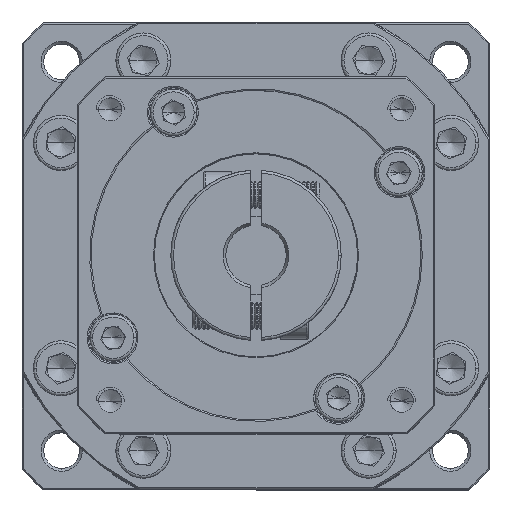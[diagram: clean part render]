
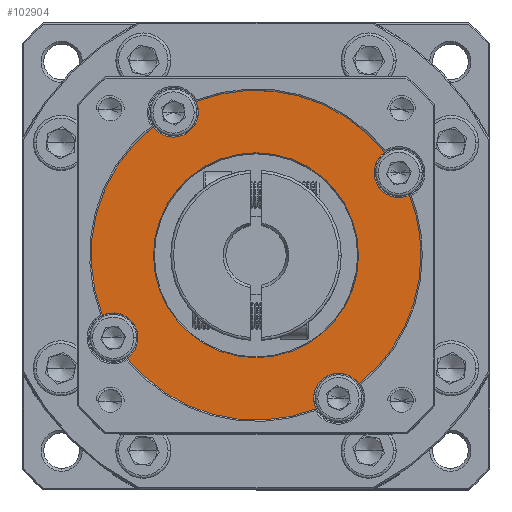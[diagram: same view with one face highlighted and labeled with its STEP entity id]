
A CAD part, top view. The second image highlights one B-rep face of the part: STEP entity #102904.
In plain terms, the highlighted planar face has unit normal (0, 0, 1).
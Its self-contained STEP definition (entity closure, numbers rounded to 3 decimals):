
#1256 = CARTESIAN_POINT ( 'NONE',  ( -62.989, 6.338, 15.321 ) ) ;
#1308 = ORIENTED_EDGE ( 'NONE', *, *, #44887, .F. ) ;
#2584 = CARTESIAN_POINT ( 'NONE',  ( -63.435, 8.289, 15.321 ) ) ;
#3496 = DIRECTION ( 'NONE',  ( 0., 0., 1. ) ) ;
#4135 = AXIS2_PLACEMENT_3D ( 'NONE', #31747, #73618, #10118 ) ;
#5823 = DIRECTION ( 'NONE',  ( 0., 0., 1. ) ) ;
#7415 = CIRCLE ( 'NONE', #117222, 4.5 ) ;
#8178 = AXIS2_PLACEMENT_3D ( 'NONE', #114476, #105324, #41966 ) ;
#8499 = DIRECTION ( 'NONE',  ( 0., 0., 1. ) ) ;
#9821 = CARTESIAN_POINT ( 'NONE',  ( -95.415, 19.27, 15.321 ) ) ;
#9850 = DIRECTION ( 'NONE',  ( 1., 0., 0. ) ) ;
#10090 = DIRECTION ( 'NONE',  ( 0., 0., 1. ) ) ;
#10118 = DIRECTION ( 'NONE',  ( 1., 0., 0. ) ) ;
#10302 = CARTESIAN_POINT ( 'NONE',  ( -43.935, 34.27, 15.321 ) ) ;
#10757 = CARTESIAN_POINT ( 'NONE',  ( -101.867, 23.325, 15.321 ) ) ;
#16171 = CIRCLE ( 'NONE', #111150, 30. ) ;
#16428 = VERTEX_POINT ( 'NONE', #10302 ) ;
#18253 = DIRECTION ( 'NONE',  ( 0., 0., 1. ) ) ;
#18439 = CARTESIAN_POINT ( 'NONE',  ( -84.435, 60.251, 15.321 ) ) ;
#19388 = ORIENTED_EDGE ( 'NONE', *, *, #134430, .T. ) ;
#19561 = VERTEX_POINT ( 'NONE', #10757 ) ;
#20967 = CARTESIAN_POINT ( 'NONE',  ( -92.652, 57.715, 15.321 ) ) ;
#21519 = CIRCLE ( 'NONE', #23103, 18.644 ) ;
#22857 = ORIENTED_EDGE ( 'NONE', *, *, #39100, .F. ) ;
#23103 = AXIS2_PLACEMENT_3D ( 'NONE', #109948, #121354, #130459 ) ;
#23117 = DIRECTION ( 'NONE',  ( 1., 0., 0. ) ) ;
#26896 = EDGE_CURVE ( 'NONE', #106854, #123062, #61210, .T. ) ;
#27368 = ORIENTED_EDGE ( 'NONE', *, *, #88864, .T. ) ;
#27467 = CARTESIAN_POINT ( 'NONE',  ( -73.935, 34.27, 15.321 ) ) ;
#27940 = AXIS2_PLACEMENT_3D ( 'NONE', #71629, #81225, #28891 ) ;
#27962 = ORIENTED_EDGE ( 'NONE', *, *, #40132, .F. ) ;
#28891 = DIRECTION ( 'NONE',  ( 1., 0., 0. ) ) ;
#29204 = CARTESIAN_POINT ( 'NONE',  ( -73.935, 34.27, 15.321 ) ) ;
#31747 = CARTESIAN_POINT ( 'NONE',  ( -73.935, 34.27, 15.321 ) ) ;
#31800 = ORIENTED_EDGE ( 'NONE', *, *, #41232, .F. ) ;
#33021 = CARTESIAN_POINT ( 'NONE',  ( -88.935, 60.251, 15.321 ) ) ;
#33186 = CIRCLE ( 'NONE', #27940, 4.5 ) ;
#33213 = DIRECTION ( 'NONE',  ( 0., 0., 1. ) ) ;
#33613 = AXIS2_PLACEMENT_3D ( 'NONE', #29204, #112294, #122795 ) ;
#33914 = CIRCLE ( 'NONE', #130221, 18.644 ) ;
#35691 = CIRCLE ( 'NONE', #33613, 30. ) ;
#39100 = EDGE_CURVE ( 'NONE', #40873, #80067, #134683, .T. ) ;
#40132 = EDGE_CURVE ( 'NONE', #113644, #106854, #108255, .T. ) ;
#40873 = VERTEX_POINT ( 'NONE', #108625 ) ;
#41232 = EDGE_CURVE ( 'NONE', #81592, #61826, #135492, .T. ) ;
#41254 = ORIENTED_EDGE ( 'NONE', *, *, #120443, .T. ) ;
#41966 = DIRECTION ( 'NONE',  ( 1., 0., 0. ) ) ;
#42090 = AXIS2_PLACEMENT_3D ( 'NONE', #117847, #3496, #45341 ) ;
#43613 = EDGE_CURVE ( 'NONE', #16428, #104893, #81125, .T. ) ;
#44231 = DIRECTION ( 'NONE',  ( 0., 0., 1. ) ) ;
#44887 = EDGE_CURVE ( 'NONE', #110135, #84471, #85333, .T. ) ;
#45128 = EDGE_LOOP ( 'NONE', ( #109746, #135156 ) ) ;
#45341 = DIRECTION ( 'NONE',  ( 1., 0., 0. ) ) ;
#48711 = DIRECTION ( 'NONE',  ( 1., 0., 0. ) ) ;
#49599 = DIRECTION ( 'NONE',  ( 0., 0., 1. ) ) ;
#50877 = VERTEX_POINT ( 'NONE', #20967 ) ;
#51616 = FACE_OUTER_BOUND ( 'NONE', #55633, .T. ) ;
#52067 = DIRECTION ( 'NONE',  ( 1., 0., 0. ) ) ;
#52338 = ORIENTED_EDGE ( 'NONE', *, *, #91913, .F. ) ;
#55633 = EDGE_LOOP ( 'NONE', ( #22857, #92723, #76457, #27962, #27368, #128180, #106653, #31800, #19388, #1308, #89956, #41254, #52338 ) ) ;
#58435 = DIRECTION ( 'NONE',  ( 1., 0., 0. ) ) ;
#58757 = CARTESIAN_POINT ( 'NONE',  ( -55.217, 10.825, 15.321 ) ) ;
#58915 = AXIS2_PLACEMENT_3D ( 'NONE', #133358, #18253, #70211 ) ;
#60136 = AXIS2_PLACEMENT_3D ( 'NONE', #64899, #44231, #126753 ) ;
#61210 = CIRCLE ( 'NONE', #132799, 4.5 ) ;
#61826 = VERTEX_POINT ( 'NONE', #86645 ) ;
#64899 = CARTESIAN_POINT ( 'NONE',  ( -73.935, 34.27, 15.321 ) ) ;
#70211 = DIRECTION ( 'NONE',  ( 1., 0., 0. ) ) ;
#71397 = FACE_BOUND ( 'NONE', #45128, .T. ) ;
#71629 = CARTESIAN_POINT ( 'NONE',  ( -99.915, 19.27, 15.321 ) ) ;
#71971 = CARTESIAN_POINT ( 'NONE',  ( -58.935, 8.289, 15.321 ) ) ;
#72237 = PLANE ( 'NONE',  #130565 ) ;
#73618 = DIRECTION ( 'NONE',  ( 0., 0., 1. ) ) ;
#75309 = VERTEX_POINT ( 'NONE', #131513 ) ;
#76457 = ORIENTED_EDGE ( 'NONE', *, *, #26896, .F. ) ;
#80067 = VERTEX_POINT ( 'NONE', #9821 ) ;
#80891 = DIRECTION ( 'NONE',  ( 0., 0., -1. ) ) ;
#81125 = CIRCLE ( 'NONE', #4135, 30. ) ;
#81225 = DIRECTION ( 'NONE',  ( 0., 0., 1. ) ) ;
#81592 = VERTEX_POINT ( 'NONE', #106301 ) ;
#81743 = CIRCLE ( 'NONE', #91722, 30. ) ;
#84471 = VERTEX_POINT ( 'NONE', #97448 ) ;
#85333 = CIRCLE ( 'NONE', #58915, 4.5 ) ;
#86645 = CARTESIAN_POINT ( 'NONE',  ( -52.454, 49.27, 15.321 ) ) ;
#88864 = EDGE_CURVE ( 'NONE', #113644, #16428, #108998, .T. ) ;
#89937 = DIRECTION ( 'NONE',  ( 1., 0., 0. ) ) ;
#89956 = ORIENTED_EDGE ( 'NONE', *, *, #127289, .F. ) ;
#91722 = AXIS2_PLACEMENT_3D ( 'NONE', #27467, #5823, #89937 ) ;
#91913 = EDGE_CURVE ( 'NONE', #80067, #19561, #33186, .T. ) ;
#92723 = ORIENTED_EDGE ( 'NONE', *, *, #100619, .T. ) ;
#93836 = CARTESIAN_POINT ( 'NONE',  ( -58.935, 8.289, 15.321 ) ) ;
#94247 = DIRECTION ( 'NONE',  ( 0., 0., 1. ) ) ;
#94579 = DIRECTION ( 'NONE',  ( 1., 0., 0. ) ) ;
#96151 = CARTESIAN_POINT ( 'NONE',  ( -99.915, 19.27, 15.321 ) ) ;
#97448 = CARTESIAN_POINT ( 'NONE',  ( -84.88, 62.202, 15.321 ) ) ;
#99247 = CIRCLE ( 'NONE', #42090, 4.5 ) ;
#100381 = CARTESIAN_POINT ( 'NONE',  ( -92.579, 34.27, 15.321 ) ) ;
#100619 = EDGE_CURVE ( 'NONE', #40873, #123062, #81743, .T. ) ;
#101949 = CARTESIAN_POINT ( 'NONE',  ( -73.935, 34.27, 15.321 ) ) ;
#102904 = ADVANCED_FACE ( 'NONE', ( #71397, #51616 ), #72237, .T. ) ;
#103845 = EDGE_CURVE ( 'NONE', #75309, #116410, #21519, .T. ) ;
#103970 = AXIS2_PLACEMENT_3D ( 'NONE', #93836, #94247, #52067 ) ;
#104893 = VERTEX_POINT ( 'NONE', #115467 ) ;
#105324 = DIRECTION ( 'NONE',  ( 0., 0., 1. ) ) ;
#106301 = CARTESIAN_POINT ( 'NONE',  ( -50.49, 52.987, 15.321 ) ) ;
#106520 = DIRECTION ( 'NONE',  ( 0., 0., 1. ) ) ;
#106653 = ORIENTED_EDGE ( 'NONE', *, *, #124124, .F. ) ;
#106854 = VERTEX_POINT ( 'NONE', #2584 ) ;
#108184 = AXIS2_PLACEMENT_3D ( 'NONE', #96151, #33213, #23117 ) ;
#108255 = CIRCLE ( 'NONE', #103970, 4.5 ) ;
#108625 = CARTESIAN_POINT ( 'NONE',  ( -97.379, 15.553, 15.321 ) ) ;
#108998 = CIRCLE ( 'NONE', #60136, 30. ) ;
#109746 = ORIENTED_EDGE ( 'NONE', *, *, #103845, .T. ) ;
#109948 = CARTESIAN_POINT ( 'NONE',  ( -73.935, 34.27, 15.321 ) ) ;
#110135 = VERTEX_POINT ( 'NONE', #18439 ) ;
#111150 = AXIS2_PLACEMENT_3D ( 'NONE', #101949, #49599, #48711 ) ;
#112294 = DIRECTION ( 'NONE',  ( 0., 0., 1. ) ) ;
#113644 = VERTEX_POINT ( 'NONE', #58757 ) ;
#113931 = DIRECTION ( 'NONE',  ( 1., 0., 0. ) ) ;
#114476 = CARTESIAN_POINT ( 'NONE',  ( -47.954, 49.27, 15.321 ) ) ;
#115467 = CARTESIAN_POINT ( 'NONE',  ( -46.002, 45.215, 15.321 ) ) ;
#116410 = VERTEX_POINT ( 'NONE', #100381 ) ;
#117222 = AXIS2_PLACEMENT_3D ( 'NONE', #33021, #106520, #94579 ) ;
#117847 = CARTESIAN_POINT ( 'NONE',  ( -47.954, 49.27, 15.321 ) ) ;
#120443 = EDGE_CURVE ( 'NONE', #50877, #19561, #35691, .T. ) ;
#121269 = CARTESIAN_POINT ( 'NONE',  ( -73.935, 34.27, 15.321 ) ) ;
#121354 = DIRECTION ( 'NONE',  ( 0., 0., -1. ) ) ;
#122795 = DIRECTION ( 'NONE',  ( 1., 0., 0. ) ) ;
#123062 = VERTEX_POINT ( 'NONE', #1256 ) ;
#124124 = EDGE_CURVE ( 'NONE', #61826, #104893, #99247, .T. ) ;
#126753 = DIRECTION ( 'NONE',  ( 1., 0., 0. ) ) ;
#127004 = EDGE_CURVE ( 'NONE', #116410, #75309, #33914, .T. ) ;
#127289 = EDGE_CURVE ( 'NONE', #50877, #110135, #7415, .T. ) ;
#128180 = ORIENTED_EDGE ( 'NONE', *, *, #43613, .T. ) ;
#130221 = AXIS2_PLACEMENT_3D ( 'NONE', #121269, #80891, #58435 ) ;
#130459 = DIRECTION ( 'NONE',  ( 1., 0., 0. ) ) ;
#130565 = AXIS2_PLACEMENT_3D ( 'NONE', #134902, #10090, #113931 ) ;
#131513 = CARTESIAN_POINT ( 'NONE',  ( -55.29, 34.27, 15.321 ) ) ;
#132799 = AXIS2_PLACEMENT_3D ( 'NONE', #71971, #8499, #9850 ) ;
#133358 = CARTESIAN_POINT ( 'NONE',  ( -88.935, 60.251, 15.321 ) ) ;
#134430 = EDGE_CURVE ( 'NONE', #81592, #84471, #16171, .T. ) ;
#134683 = CIRCLE ( 'NONE', #108184, 4.5 ) ;
#134902 = CARTESIAN_POINT ( 'NONE',  ( -73.935, 34.27, 15.321 ) ) ;
#135156 = ORIENTED_EDGE ( 'NONE', *, *, #127004, .T. ) ;
#135492 = CIRCLE ( 'NONE', #8178, 4.5 ) ;
